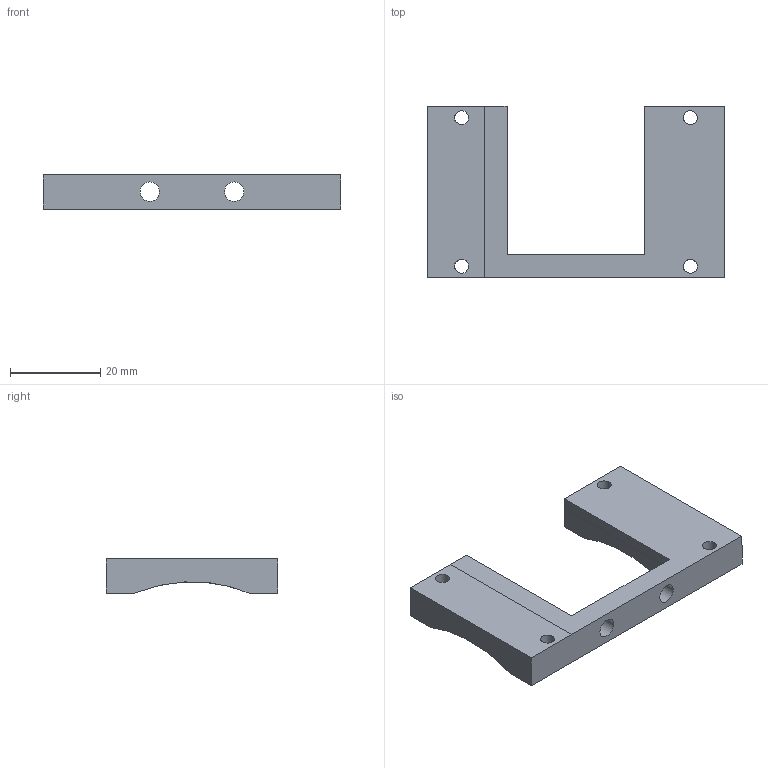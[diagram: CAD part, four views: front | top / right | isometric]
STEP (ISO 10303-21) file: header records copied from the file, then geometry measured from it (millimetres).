
FILE_DESCRIPTION(('STEP AP242 Edition 2','STEP AP242 Edition 2''CAx-IF Rec.Pracs.---Representation and Presentation of Product Manufacturing Information (PMI)---4.0---2014-10-13','STEP AP242 Edition 2''CAx-IF Rec.Pracs.---Representation and Presentation of Product Manufacturing Information (PMI)---4.0---2014-10-13''CAx-IF Rec.Pracs.---3D Tessellated Geometry---0.4---2014-09-14','STEP AP242 Edition 2''CAx-IF Rec.Pracs.---Representation and Presentation of Product Manufacturing Information (PMI)---4.0---2014-10-13''CAx-IF Rec.Pracs.---3D Tessellated Geometry---0.4---2014-09-14''2;1','STEP AP242 Edition 2''CAx-IF Rec.Pracs.---Representation and Presentation of Product Manufacturing Information (PMI)---4.0---2014-10-13''CAx-IF Rec.Pracs.---3D Tessellated Geometry---0.4---2014-09-14''2;1''CAx-IF Rec.Pracs.---User Defined Attributes---1.5---2016-08-15'),'2;1');
FILE_NAME('/vol/tmp/translate-2103377166052426376/Part Studio 1 - Clip.step','2026-03-22T03:08:55',(''),(''),'ST-DEVELOPER v20','ONSHAPE BY PTC INC, 1.212',' ');
FILE_SCHEMA(('AP242_MANAGED_MODEL_BASED_3D_ENGINEERING_MIM_LF { 1 0 10303 442 3 1 4 }'));
Length unit declared in the file: metre
Products named in the file (1): Clip
Bounding box: 66.17 x 38.1 x 7.63 mm (x, y, z)
Volume: 9588 mm3; surface area: 5278.9 mm2
Topology: 1 solids, 1 shells, 27 faces, 77 edges, 52 vertices
Faces by surface type: plane 18, cylinder 9
Full cylindrical faces by diameter (mm): 3.1 x4, 4.318 x2
Entity records: 882 total; most frequent: CARTESIAN_POINT 147, DIRECTION 142, ORIENTED_EDGE 138, EDGE_CURVE 69, LINE 52, VECTOR 52, VERTEX_POINT 50, EDGE_LOOP 45
